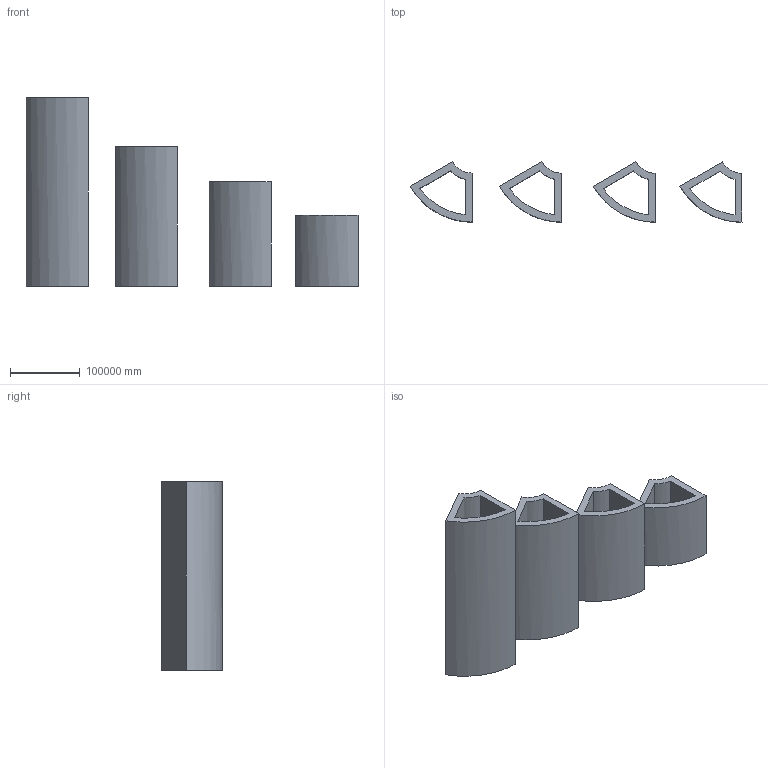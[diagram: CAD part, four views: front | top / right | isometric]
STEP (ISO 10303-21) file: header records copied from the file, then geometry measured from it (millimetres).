
FILE_DESCRIPTION(/* description */ (''),/* implementation_level */ '2;1');
FILE_NAME(/* name */ 'CORNER_120ROUND_FERRES',/* time_stamp */ '2023-09-19T16:00:43+02:00',/* author */ (''),/* organization */ (''),/* preprocessor_version */ 'ST-DEVELOPER v16.5',/* originating_system */ 'Rhino 7.15',/* authorisation */ '');
FILE_SCHEMA (('AUTOMOTIVE_DESIGN'));
Length unit declared in the file: metre
Products named in the file (1): Document
Bounding box: 475099.31 x 86338.38 x 270000 mm (x, y, z)
Volume: 1748145087677060 mm3; surface area: 369153240977 mm2
Topology: 4 solids, 4 shells, 40 faces, 96 edges, 64 vertices
Faces by surface type: bspline 40
Entity records: 2165 total; most frequent: CARTESIAN_POINT 994, ORIENTED_EDGE 192, PCURVE 192, DEFINITIONAL_REPRESENTATION 192, B_SPLINE_CURVE_WITH_KNOTS 128, SURFACE_CURVE 96, EDGE_CURVE 96, VERTEX_POINT 64
